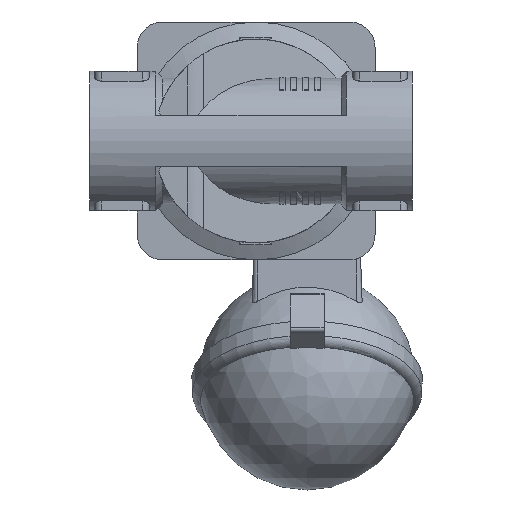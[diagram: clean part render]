
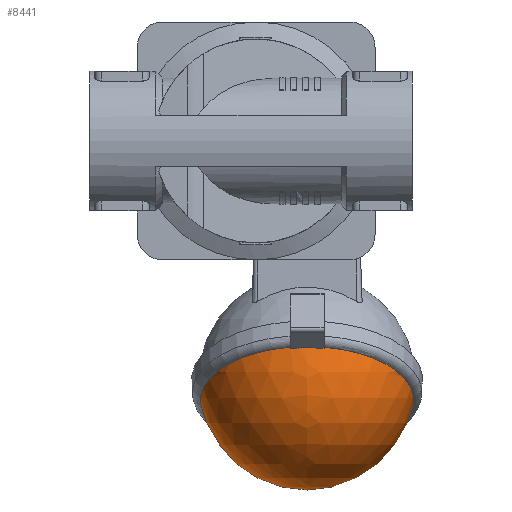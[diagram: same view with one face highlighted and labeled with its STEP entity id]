
A CAD part, front view. The second image highlights one B-rep face of the part: STEP entity #8441.
In plain terms, the highlighted spherical face has radius 32 mm.
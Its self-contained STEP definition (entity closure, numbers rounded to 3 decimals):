
#20=SPHERICAL_SURFACE('',#9084,32.);
#2842=ORIENTED_EDGE('',*,*,#4202,.F.);
#2843=ORIENTED_EDGE('',*,*,#4203,.T.);
#2844=ORIENTED_EDGE('',*,*,#4204,.T.);
#2845=ORIENTED_EDGE('',*,*,#4205,.F.);
#2846=ORIENTED_EDGE('',*,*,#4206,.F.);
#2847=ORIENTED_EDGE('',*,*,#4207,.F.);
#2848=ORIENTED_EDGE('',*,*,#4208,.T.);
#2849=ORIENTED_EDGE('',*,*,#4209,.T.);
#4202=EDGE_CURVE('',#4987,#4988,#5377,.F.);
#4203=EDGE_CURVE('',#4987,#4989,#5378,.F.);
#4204=EDGE_CURVE('',#4989,#4990,#5379,.F.);
#4205=EDGE_CURVE('',#4991,#4990,#5380,.F.);
#4206=EDGE_CURVE('',#4992,#4991,#5381,.F.);
#4207=EDGE_CURVE('',#4993,#4992,#5382,.F.);
#4208=EDGE_CURVE('',#4993,#4994,#5383,.F.);
#4209=EDGE_CURVE('',#4994,#4988,#5384,.F.);
#4987=VERTEX_POINT('',#13148);
#4988=VERTEX_POINT('',#13149);
#4989=VERTEX_POINT('',#13151);
#4990=VERTEX_POINT('',#13153);
#4991=VERTEX_POINT('',#13155);
#4992=VERTEX_POINT('',#13157);
#4993=VERTEX_POINT('',#13159);
#4994=VERTEX_POINT('',#13161);
#5377=CIRCLE('',#9085,31.368);
#5378=CIRCLE('',#9086,31.607);
#5379=CIRCLE('',#9087,31.291);
#5380=CIRCLE('',#9088,31.607);
#5381=CIRCLE('',#9089,31.368);
#5382=CIRCLE('',#9090,30.708);
#5383=CIRCLE('',#9091,30.984);
#5384=CIRCLE('',#9092,30.708);
#5774=EDGE_LOOP('',(#2842,#2843,#2844,#2845,#2846,#2847,#2848,#2849));
#6222=FACE_BOUND('',#5774,.T.);
#8441=ADVANCED_FACE('',(#6222),#20,.T.);
#9084=AXIS2_PLACEMENT_3D('',#13146,#10727,#10728);
#9085=AXIS2_PLACEMENT_3D('',#13147,#10729,#10730);
#9086=AXIS2_PLACEMENT_3D('',#13150,#10731,#10732);
#9087=AXIS2_PLACEMENT_3D('',#13152,#10733,#10734);
#9088=AXIS2_PLACEMENT_3D('',#13154,#10735,#10736);
#9089=AXIS2_PLACEMENT_3D('',#13156,#10737,#10738);
#9090=AXIS2_PLACEMENT_3D('',#13158,#10739,#10740);
#9091=AXIS2_PLACEMENT_3D('',#13160,#10741,#10742);
#9092=AXIS2_PLACEMENT_3D('',#13162,#10743,#10744);
#10727=DIRECTION('',(1.,0.,0.));
#10728=DIRECTION('',(0.,-1.,0.));
#10729=DIRECTION('',(-0.866,-0.5,0.));
#10730=DIRECTION('',(0.5,-0.866,0.));
#10731=DIRECTION('',(0.,0.,1.));
#10732=DIRECTION('',(1.,0.,0.));
#10733=DIRECTION('',(0.866,0.5,0.));
#10734=DIRECTION('',(-0.5,0.866,0.));
#10735=DIRECTION('',(0.,0.,1.));
#10736=DIRECTION('',(1.,0.,0.));
#10737=DIRECTION('',(-0.866,-0.5,0.));
#10738=DIRECTION('',(0.5,-0.866,0.));
#10739=DIRECTION('',(0.,0.,1.));
#10740=DIRECTION('',(1.,0.,0.));
#10741=DIRECTION('',(0.866,0.5,0.));
#10742=DIRECTION('',(-0.5,0.866,0.));
#10743=DIRECTION('',(0.,0.,1.));
#10744=DIRECTION('',(1.,0.,0.));
#13146=CARTESIAN_POINT('',(-70.7,0.,0.));
#13147=CARTESIAN_POINT('',(-76.183,-3.165,0.));
#13148=CARTESIAN_POINT('',(-60.699,-29.983,-5.));
#13149=CARTESIAN_POINT('',(-91.207,22.858,-9.));
#13150=CARTESIAN_POINT('',(-70.7,0.,-5.));
#13151=CARTESIAN_POINT('',(-61.058,-30.1,-5.));
#13152=CARTESIAN_POINT('',(-76.502,-3.35,0.));
#13153=CARTESIAN_POINT('',(-61.058,-30.1,5.));
#13154=CARTESIAN_POINT('',(-70.7,0.,5.));
#13155=CARTESIAN_POINT('',(-60.699,-29.983,5.));
#13156=CARTESIAN_POINT('',(-76.183,-3.165,0.));
#13157=CARTESIAN_POINT('',(-91.207,22.858,9.));
#13158=CARTESIAN_POINT('',(-70.7,0.,9.));
#13159=CARTESIAN_POINT('',(-92.452,21.676,9.));
#13160=CARTESIAN_POINT('',(-77.628,-4.,0.));
#13161=CARTESIAN_POINT('',(-92.452,21.676,-9.));
#13162=CARTESIAN_POINT('',(-70.7,0.,-9.));
